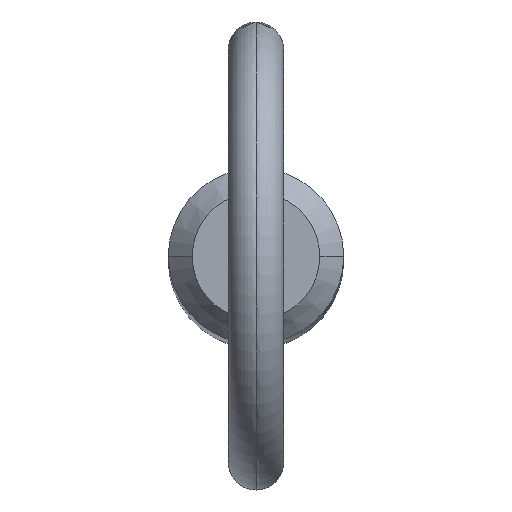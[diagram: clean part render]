
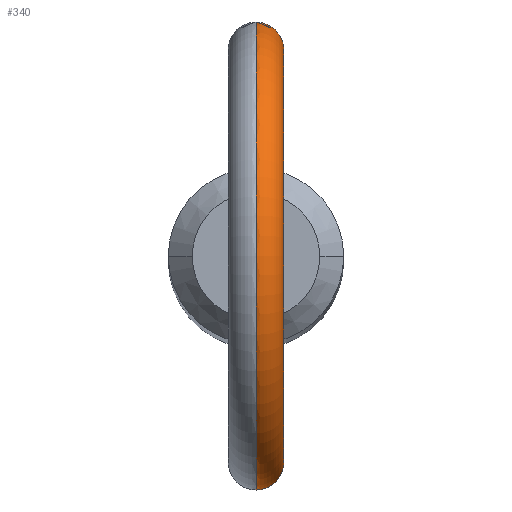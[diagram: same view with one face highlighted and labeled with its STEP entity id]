
A CAD part, top view. The second image highlights one B-rep face of the part: STEP entity #340.
In plain terms, the highlighted toroidal (fillet/blend) face has major radius 11.2 mm and minor radius 1.5 mm.
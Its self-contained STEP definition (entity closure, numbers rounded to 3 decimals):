
#1 = EDGE_CURVE ( 'NONE', #299, #10, #123, .T. ) ;
#3 = CARTESIAN_POINT ( 'NONE',  ( 0.511, 4.733, 122.908 ) ) ;
#7 = CARTESIAN_POINT ( 'NONE',  ( 0., -4.76, 126.148 ) ) ;
#9 = CARTESIAN_POINT ( 'NONE',  ( 0.105, -4.76, 122.826 ) ) ;
#10 = VERTEX_POINT ( 'NONE', #498 ) ;
#12 = ORIENTED_EDGE ( 'NONE', *, *, #471, .F. ) ;
#13 = CARTESIAN_POINT ( 'NONE',  ( 0.797, -4.697, 123.029 ) ) ;
#15 = CARTESIAN_POINT ( 'NONE',  ( 0.506, -4.734, 126.037 ) ) ;
#17 = CARTESIAN_POINT ( 'NONE',  ( 1.404, -4.548, 124.953 ) ) ;
#27 = ORIENTED_EDGE ( 'NONE', *, *, #211, .F. ) ;
#34 = VERTEX_POINT ( 'NONE', #146 ) ;
#36 = CARTESIAN_POINT ( 'NONE',  ( 0., 4.76, 126.148 ) ) ;
#51 = CARTESIAN_POINT ( 'NONE',  ( 1.19, -4.611, 125.424 ) ) ;
#57 = CARTESIAN_POINT ( 'NONE',  ( 1.499, -4.518, 124.237 ) ) ;
#67 = AXIS2_PLACEMENT_3D ( 'NONE', #357, #517, #487 ) ;
#81 = CARTESIAN_POINT ( 'NONE',  ( 0.207, 4.757, 122.836 ) ) ;
#83 = CARTESIAN_POINT ( 'NONE',  ( 0.968, 4.663, 123.149 ) ) ;
#89 = TOROIDAL_SURFACE ( 'NONE', #347, 11.2, 1.5 ) ;
#92 = CARTESIAN_POINT ( 'NONE',  ( 1.503, -4.517, 124.34 ) ) ;
#96 = CARTESIAN_POINT ( 'NONE',  ( 1.478, -4.525, 124.652 ) ) ;
#99 = CARTESIAN_POINT ( 'NONE',  ( 0., -4.76, 122.826 ) ) ;
#101 = CARTESIAN_POINT ( 'NONE',  ( 1.473, -4.526, 124.031 ) ) ;
#121 = DIRECTION ( 'NONE',  ( 1., 0., 0. ) ) ;
#123 = B_SPLINE_CURVE_WITH_KNOTS ( 'NONE', 3,
 ( #295, #380, #329, #454, #15, #497, #138, #331, #250, #51, #334, #17, #293, #96, #178, #92, #57, #101, #136, #459, #258, #140, #219, #457, #13, #420, #416, #180, #9, #99 ),
 .UNSPECIFIED., .F., .F.,
 ( 4, 2, 2, 2, 2, 2, 2, 2, 2, 2, 2, 2, 2, 2, 4 ),
 ( 0.004, 0.005, 0.005, 0.005, 0.006, 0.006, 0.007, 0.007, 0.007, 0.007, 0.008, 0.008, 0.009, 0.009, 0.009 ),
 .UNSPECIFIED. ) ;
#124 = EDGE_CURVE ( 'NONE', #34, #10, #400, .T. ) ;
#131 = CARTESIAN_POINT ( 'NONE',  ( 0.925, 4.67, 125.74 ) ) ;
#136 = CARTESIAN_POINT ( 'NONE',  ( 1.45, -4.534, 123.928 ) ) ;
#138 = CARTESIAN_POINT ( 'NONE',  ( 0.77, -4.698, 125.875 ) ) ;
#140 = CARTESIAN_POINT ( 'NONE',  ( 1.24, -4.596, 123.46 ) ) ;
#145 = CARTESIAN_POINT ( 'NONE',  ( 0., 0., 134.6 ) ) ;
#146 = CARTESIAN_POINT ( 'NONE',  ( 0., 4.76, 122.826 ) ) ;
#166 = CARTESIAN_POINT ( 'NONE',  ( 0.795, 4.697, 123.028 ) ) ;
#170 = CARTESIAN_POINT ( 'NONE',  ( 1.385, 4.554, 123.73 ) ) ;
#171 = CARTESIAN_POINT ( 'NONE',  ( 0.208, 4.76, 126.148 ) ) ;
#178 = CARTESIAN_POINT ( 'NONE',  ( 1.492, -4.52, 124.548 ) ) ;
#180 = CARTESIAN_POINT ( 'NONE',  ( 0.208, -4.757, 122.836 ) ) ;
#186 = ORIENTED_EDGE ( 'NONE', *, *, #124, .T. ) ;
#211 = EDGE_CURVE ( 'NONE', #34, #499, #317, .T. ) ;
#219 = CARTESIAN_POINT ( 'NONE',  ( 1.178, -4.613, 123.376 ) ) ;
#223 = CIRCLE ( 'NONE', #67, 9.7 ) ;
#240 = EDGE_LOOP ( 'NONE', ( #27, #186, #292, #12 ) ) ;
#243 = CARTESIAN_POINT ( 'NONE',  ( 1.343, 4.567, 123.637 ) ) ;
#244 = CARTESIAN_POINT ( 'NONE',  ( 0.685, 4.711, 125.936 ) ) ;
#245 = CARTESIAN_POINT ( 'NONE',  ( 1.239, 4.596, 123.459 ) ) ;
#250 = CARTESIAN_POINT ( 'NONE',  ( 0.997, -4.655, 125.664 ) ) ;
#258 = CARTESIAN_POINT ( 'NONE',  ( 1.344, -4.567, 123.639 ) ) ;
#279 = CARTESIAN_POINT ( 'NONE',  ( 0.104, 4.76, 122.826 ) ) ;
#287 = CARTESIAN_POINT ( 'NONE',  ( 1.188, 4.611, 125.427 ) ) ;
#292 = ORIENTED_EDGE ( 'NONE', *, *, #1, .F. ) ;
#293 = CARTESIAN_POINT ( 'NONE',  ( 1.434, -4.539, 124.854 ) ) ;
#295 = CARTESIAN_POINT ( 'NONE',  ( 0., -4.76, 126.148 ) ) ;
#299 = VERTEX_POINT ( 'NONE', #7 ) ;
#317 = B_SPLINE_CURVE_WITH_KNOTS ( 'NONE', 3,
 ( #395, #279, #81, #362, #3, #166, #83, #448, #245, #243, #170, #374, #368, #373, #408, #492, #287, #449, #131, #496, #244, #450, #171, #453 ),
 .UNSPECIFIED., .F., .F.,
 ( 4, 2, 2, 2, 2, 2, 2, 2, 2, 2, 2, 4 ),
 ( 0.001, 0.001, 0.001, 0.002, 0.002, 0.002, 0.003, 0.004, 0.004, 0.005, 0.005, 0.006 ),
 .UNSPECIFIED. ) ;
#329 = CARTESIAN_POINT ( 'NONE',  ( 0.209, -4.756, 126.134 ) ) ;
#331 = CARTESIAN_POINT ( 'NONE',  ( 0.925, -4.67, 125.739 ) ) ;
#334 = CARTESIAN_POINT ( 'NONE',  ( 1.293, -4.582, 125.242 ) ) ;
#340 = ADVANCED_FACE ( 'NONE', ( #446 ), #89, .T. ) ;
#347 = AXIS2_PLACEMENT_3D ( 'NONE', #145, #512, #472 ) ;
#357 = CARTESIAN_POINT ( 'NONE',  ( 0., 0., 134.6 ) ) ;
#362 = CARTESIAN_POINT ( 'NONE',  ( 0.411, 4.743, 122.877 ) ) ;
#368 = CARTESIAN_POINT ( 'NONE',  ( 1.508, 4.515, 124.237 ) ) ;
#373 = CARTESIAN_POINT ( 'NONE',  ( 1.487, 4.522, 124.653 ) ) ;
#374 = CARTESIAN_POINT ( 'NONE',  ( 1.484, 4.523, 124.028 ) ) ;
#380 = CARTESIAN_POINT ( 'NONE',  ( 0.104, -4.76, 126.148 ) ) ;
#393 = AXIS2_PLACEMENT_3D ( 'NONE', #521, #121, #401 ) ;
#395 = CARTESIAN_POINT ( 'NONE',  ( 0., 4.76, 122.826 ) ) ;
#400 = CIRCLE ( 'NONE', #393, 12.7 ) ;
#401 = DIRECTION ( 'NONE',  ( 0., 0., -1. ) ) ;
#408 = CARTESIAN_POINT ( 'NONE',  ( 1.441, 4.537, 124.859 ) ) ;
#416 = CARTESIAN_POINT ( 'NONE',  ( 0.411, -4.743, 122.877 ) ) ;
#420 = CARTESIAN_POINT ( 'NONE',  ( 0.512, -4.733, 122.908 ) ) ;
#446 = FACE_OUTER_BOUND ( 'NONE', #240, .T. ) ;
#448 = CARTESIAN_POINT ( 'NONE',  ( 1.177, 4.613, 123.375 ) ) ;
#449 = CARTESIAN_POINT ( 'NONE',  ( 0.996, 4.655, 125.666 ) ) ;
#450 = CARTESIAN_POINT ( 'NONE',  ( 0.415, 4.745, 126.088 ) ) ;
#453 = CARTESIAN_POINT ( 'NONE',  ( 0., 4.76, 126.148 ) ) ;
#454 = CARTESIAN_POINT ( 'NONE',  ( 0.409, -4.743, 126.078 ) ) ;
#457 = CARTESIAN_POINT ( 'NONE',  ( 0.97, -4.662, 123.15 ) ) ;
#459 = CARTESIAN_POINT ( 'NONE',  ( 1.385, -4.554, 123.732 ) ) ;
#471 = EDGE_CURVE ( 'NONE', #499, #299, #223, .T. ) ;
#472 = DIRECTION ( 'NONE',  ( 0., 0., -1. ) ) ;
#487 = DIRECTION ( 'NONE',  ( 0., 0., -1. ) ) ;
#492 = CARTESIAN_POINT ( 'NONE',  ( 1.292, 4.582, 125.244 ) ) ;
#496 = CARTESIAN_POINT ( 'NONE',  ( 0.771, 4.698, 125.875 ) ) ;
#497 = CARTESIAN_POINT ( 'NONE',  ( 0.687, -4.711, 125.935 ) ) ;
#498 = CARTESIAN_POINT ( 'NONE',  ( 0., -4.76, 122.826 ) ) ;
#499 = VERTEX_POINT ( 'NONE', #36 ) ;
#512 = DIRECTION ( 'NONE',  ( 1., 0., 0. ) ) ;
#517 = DIRECTION ( 'NONE',  ( 1., 0., 0. ) ) ;
#521 = CARTESIAN_POINT ( 'NONE',  ( 0., 0., 134.6 ) ) ;
